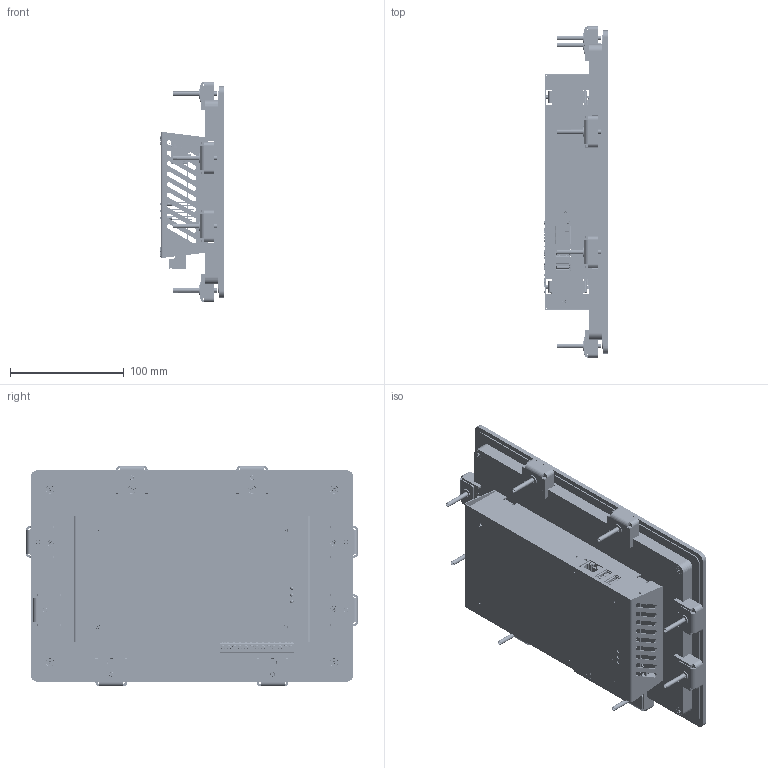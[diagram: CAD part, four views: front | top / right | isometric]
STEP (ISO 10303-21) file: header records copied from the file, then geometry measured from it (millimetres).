
FILE_DESCRIPTION(('STEP AP214'), '1');
FILE_NAME('NLcon-CED10 IP65', '', ('UNSPECIFIED'), ('UNSPECIFIED'), 'C3D Converter', 'C3D Toolkit', '');
FILE_SCHEMA(('AUTOMOTIVE_DESIGN { 1 0 10303 214 3 1 1}'));
Length unit declared in the file: millimetre
Assembly tree (15 placements, depth 4):
  (unnamed)
    (unnamed)
      (unnamed)
        (unnamed)
      (unnamed)
      (unnamed)
      (unnamed)
      (unnamed)
    (unnamed)  x8
Bounding box: 55.47 x 292 x 194 mm (x, y, z)
Volume: 177069.3 mm3; surface area: 454836.6 mm2
Topology: 21 solids, 37 shells, 7755 faces, 22113 edges, 14557 vertices
Faces by surface type: plane 4261, cylinder 1749, extrusion 1313, torus 214, cone 130, bspline 55, sphere 29, revolution 4
Full cylindrical faces by diameter (mm): 0.3 x341, 0.4 x46, 0.6 x1, 0.8 x9, 0.85 x7, 0.89 x8, 0.92 x8, 0.95 x1, 0.965 x7, 1 x4, 1.02 x4, 1.1 x1, 1.2 x1, 1.35 x8, 1.4 x2, 1.6 x11, 2.55 x2, 2.9 x1, 3 x27, 3.3 x2, 3.5 x7, 3.6 x1, 3.95 x13, 4 x30, 4.2 x12, 4.95 x8, 5 x8, 6 x8, 6.5 x8, 6.8 x12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
Entity records: 355576 total; most frequent: CARTESIAN_POINT 112222, ORIENTED_EDGE 40057, DIRECTION 32990, EDGE_CURVE 20086, VECTOR 14014, VERTEX_POINT 13677, LINE 12701, AXIS2_PLACEMENT_3D 9486
